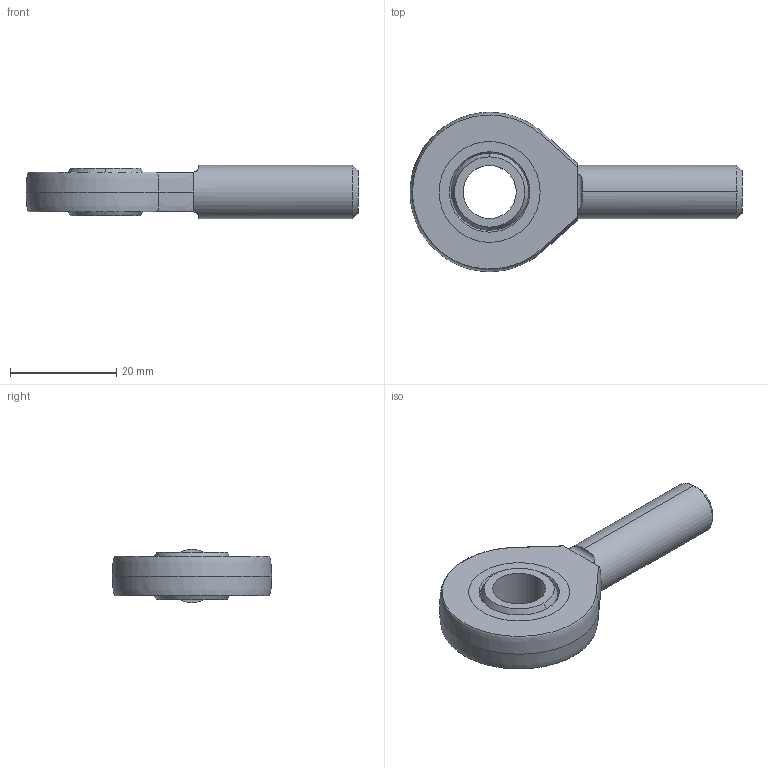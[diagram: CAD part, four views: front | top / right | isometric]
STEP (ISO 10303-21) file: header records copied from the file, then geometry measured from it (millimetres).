
FILE_DESCRIPTION (( 'STEP AP214' ), '1' );
FILE_NAME ('HL-3-003 100-150kg.STEP', '2023-06-02T14:43:49', ( '' ), ( '' ), 'SwSTEP 2.0', 'SolidWorks 2022', '' );
FILE_SCHEMA (( 'AUTOMOTIVE_DESIGN' ));
Length unit declared in the file: millimetre
Products named in the file (4): HL-3-003 100-150kg Rod end; HL-3-003 100-150kg Rod end part3; HL-3-003 100-150kg; HL-3-003 100-150kg Rod end part2
Assembly tree (3 placements, depth 2):
  HL-3-003 100-150kg
    HL-3-003 100-150kg Rod end
    HL-3-003 100-150kg Rod end part2
    HL-3-003 100-150kg Rod end part3
Bounding box: 62.5 x 30 x 10 mm (x, y, z)
Volume: 7372.2 mm3; surface area: 4869.4 mm2
Topology: 3 solids, 3 shells, 35 faces, 89 edges, 56 vertices
Faces by surface type: cylinder 10, plane 9, cone 6, bspline 6, sphere 4
Entity records: 1624 total; most frequent: CARTESIAN_POINT 689, DIRECTION 166, ORIENTED_EDGE 158, EDGE_CURVE 79, AXIS2_PLACEMENT_3D 73, VERTEX_POINT 50, EDGE_LOOP 41, CIRCLE 38
